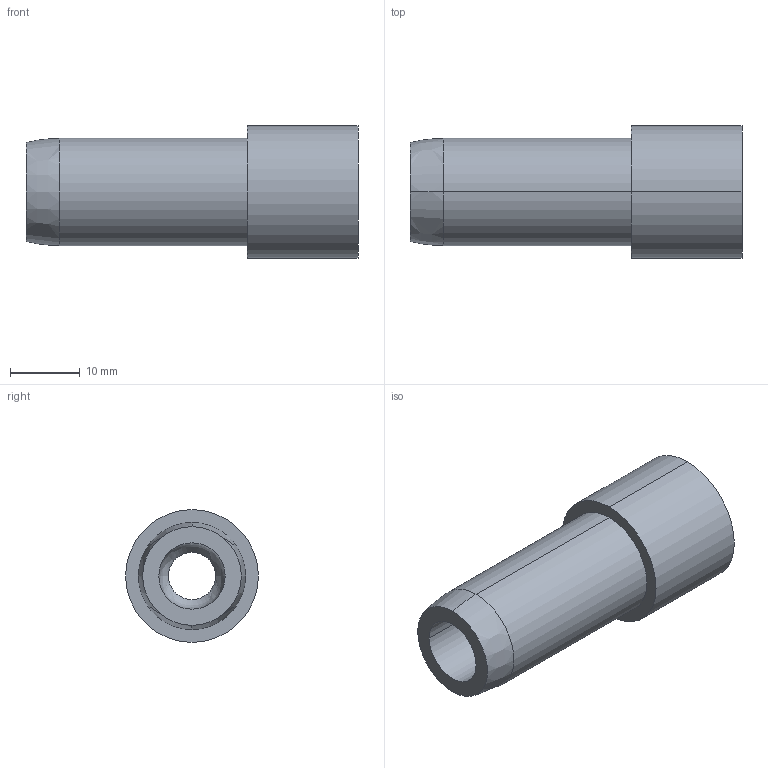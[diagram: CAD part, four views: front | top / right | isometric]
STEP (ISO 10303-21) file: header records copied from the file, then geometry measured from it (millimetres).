
FILE_DESCRIPTION (( 'STEP AP203' ), '1' );
FILE_NAME ('FDPCK-MODCON.625-END-THRD.step', '2019-09-11T18:37:43', ( 'ydmin' ), ( '' ), 'SwSTEP 2.0', 'SolidWorks 2017', '' );
FILE_SCHEMA (( 'CONFIG_CONTROL_DESIGN' ));
Length unit declared in the file: inch
Products named in the file (1): FDPCK-MODCON.625-END-THRD
Bounding box: 47.62 x 19.05 x 19.05 mm (x, y, z)
Volume: 7626.2 mm3; surface area: 4188.9 mm2
Topology: 1 solids, 1 shells, 14 faces, 30 edges, 18 vertices
Faces by surface type: cylinder 8, bspline 3, plane 3
Entity records: 492 total; most frequent: CARTESIAN_POINT 106, DIRECTION 72, ORIENTED_EDGE 56, AXIS2_PLACEMENT_3D 32, EDGE_CURVE 28, CIRCLE 20, VERTEX_POINT 18, EDGE_LOOP 18
